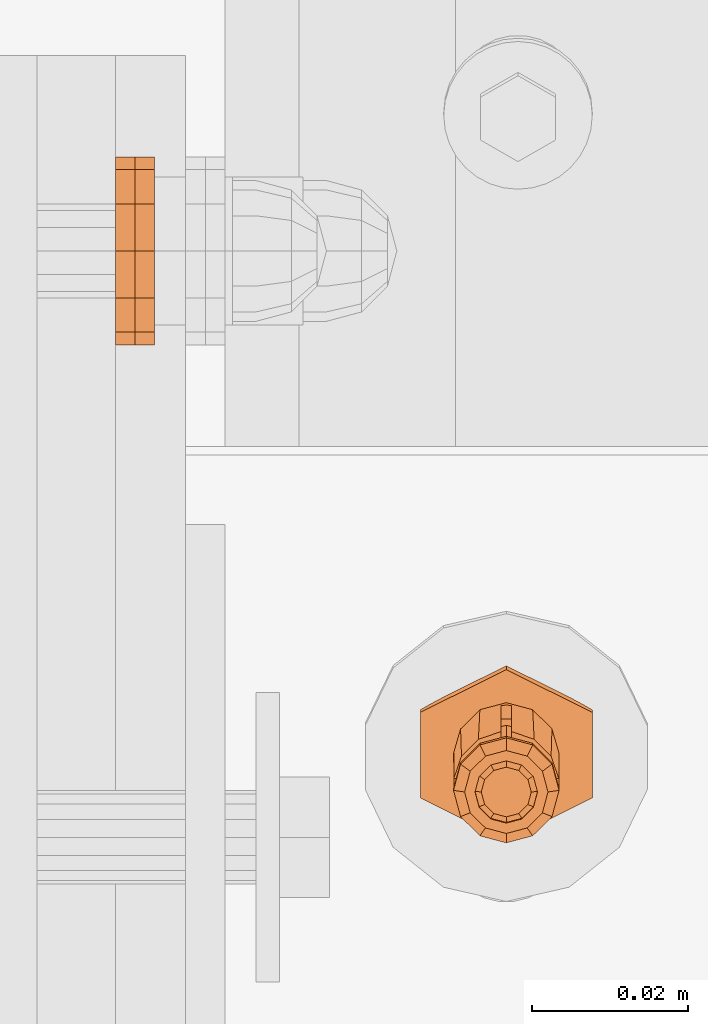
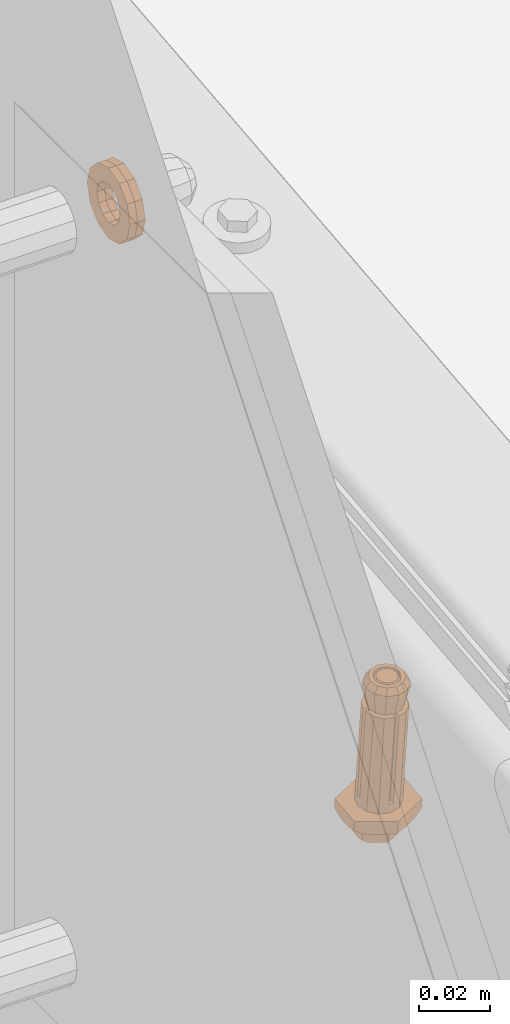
# One storey, part 107 of 162: 3 proxies.
"""IFC2X3 building model written with IfcOpenShell, lengths in millimetres."""

from ifc_helpers import new_model, entity, si_unit, converted_unit, origin_with_axes, place, context, project, spatial, faceted_brep, material, element, save


model = new_model("IFC2X3")

# Units and contexts
model_context = context("Model", 3, precision=1e-09, world=origin_with_axes())
ifc_project = project(units=[si_unit("LENGTHUNIT", "METRE", prefix="MILLI"), si_unit("AREAUNIT", "SQUARE_METRE"), si_unit("VOLUMEUNIT", "CUBIC_METRE"), converted_unit("PLANEANGLEUNIT", "DEGREE", entity("IfcPlaneAngleMeasure", 0.01745329), si_unit("PLANEANGLEUNIT", "RADIAN"), dimensions=[0, 0, 0, 0, 0, 0, 0])], contexts=[model_context])

# Site, building, storey
site_placement = place(None, origin_with_axes())
site = spatial("IfcSite", under=ifc_project, at=site_placement, Name="Hermannstra?e 1a, 60318 Frankfurt", CompositionType="ELEMENT")
building_placement = place(site_placement, origin_with_axes())
building = spatial("IfcBuilding", under=site, at=building_placement, Name="Struktur 1", CompositionType="ELEMENT")
storey_placement = place(building_placement, origin_with_axes())
storey = spatial("IfcBuildingStorey", under=building, at=storey_placement, Name="Default Storey", CompositionType="ELEMENT", Elevation=0.0)

# Proxies
ifc_material_1 = material(Name="S235JR")
proxy_1_placement = place(None, origin_with_axes())
element("IfcBuildingElementProxy", 1, at=proxy_1_placement, inside=storey, material=ifc_material_1, ObjectType="-", context=model_context, shape_type="Brep", body=[
    faceted_brep([(2589.309364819, 1858.221868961, 17347.870380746), (2589.309364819, 1857.509874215, 17346.991140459), (2591.309364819, 1858.042836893, 17347.047157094), (2590.909364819, 1858.648239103, 17347.915194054), (2592.773466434, 1859.498918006, 17347.200197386), (2592.080646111, 1859.813103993, 17348.037626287), (2587.709364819, 1864.160438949, 17348.494549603), (2586.538083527, 1862.995574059, 17348.37211737), (2586.109364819, 1861.404339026, 17348.204871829), (2586.538083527, 1859.813103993, 17348.037626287), (2587.709364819, 1858.648239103, 17347.915194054), (2592.509364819, 1861.404339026, 17348.204871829), (2592.080646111, 1862.995574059, 17348.37211737), (2590.909364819, 1864.160438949, 17348.494549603), (2589.309364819, 1864.586809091, 17348.539362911), (2587.309364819, 1858.042836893, 17347.047157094), (2593.309364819, 1861.487961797, 17347.409254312), (2589.309364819, 1861.983692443, 17304.425603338), (2591.309364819, 1862.51665512, 17304.481619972), (2587.309364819, 1862.51665512, 17304.481619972), (2585.845263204, 1859.498918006, 17347.200197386), (2592.773466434, 1863.972736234, 17304.634660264), (2591.309364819, 1864.933086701, 17347.771351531), (2589.309364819, 1865.466049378, 17347.827368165), (2592.773466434, 1863.477005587, 17347.618311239), (2585.309364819, 1861.487961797, 17347.409254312), (2585.845263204, 1863.477005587, 17347.618311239), (2587.309364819, 1864.933086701, 17347.771351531), (2585.845263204, 1863.972736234, 17304.634660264), (2593.309364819, 1865.961780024, 17304.843717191), (2591.809364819, 1861.655373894, 17304.391095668), (2593.639491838, 1863.475475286, 17304.582396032), (2594.309364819, 1865.961780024, 17304.843717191), (2593.639491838, 1868.448084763, 17305.105038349), (2591.809364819, 1870.268186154, 17305.296338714), (2589.309364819, 1870.934389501, 17305.366359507), (2586.809364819, 1870.268186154, 17305.296338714), (2584.9792378, 1868.448084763, 17305.105038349), (2584.309364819, 1865.961780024, 17304.843717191), (2584.9792378, 1863.475475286, 17304.582396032), (2586.809364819, 1861.655373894, 17304.391095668), (2589.309364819, 1860.989170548, 17304.321074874), (2585.309364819, 1865.961780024, 17304.843717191), (2585.845263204, 1867.950823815, 17305.052774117), (2587.309364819, 1869.406904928, 17305.205814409), (2589.309364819, 1869.939867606, 17305.261831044), (2591.309364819, 1869.406904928, 17305.205814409), (2592.773466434, 1867.950823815, 17305.052774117), (2589.984364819, 1860.86744627, 17305.917094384), (2588.634364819, 1860.86744627, 17305.917094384), (2585.096454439, 1859.771535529, 17337.97817447), (2586.616525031, 1858.259792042, 17337.819283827), (2589.984364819, 1857.522535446, 17337.741795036), (2592.002204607, 1858.259792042, 17337.819283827), (2593.5222752, 1859.771535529, 17337.97817447), (2589.534977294, 1860.8269898, 17305.912842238), (2589.083752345, 1860.8269898, 17305.912842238), (2588.634364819, 1857.522535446, 17337.741795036), (2584.355136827, 1861.778321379, 17338.189096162), (2584.355136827, 1865.123232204, 17306.364395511), (2592.877629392, 1856.751265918, 17337.660731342), (2595.039110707, 1858.900906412, 17337.886667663), (2596.02553002, 1861.778321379, 17338.189096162), (2594.263592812, 1861.778321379, 17338.189096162), (2589.984364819, 1855.770250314, 17337.557622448), (2594.263592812, 1865.123232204, 17306.364395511), (2589.984364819, 1859.115161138, 17305.732921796), (2588.634364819, 1859.115161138, 17305.732921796), (2589.084029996, 1859.085253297, 17305.729778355), (2589.534699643, 1859.085253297, 17305.729778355), (2594.263592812, 1866.465836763, 17306.505508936), (2584.355136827, 1866.465836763, 17306.505508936), (2588.634364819, 1855.770250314, 17337.557622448), (2583.579618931, 1858.900906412, 17337.886667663), (2585.741100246, 1856.751265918, 17337.660731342), (2582.593199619, 1861.778321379, 17338.189096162), (2584.314457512, 1865.570157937, 17306.411369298), (2584.314457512, 1866.018911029, 17306.458535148), (2594.304272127, 1865.570157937, 17306.411369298), (2589.984364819, 1870.721622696, 17306.952810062), (2594.304272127, 1866.018911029, 17306.458535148), (2593.5222752, 1865.127711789, 17338.54113128), (2592.002204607, 1866.639455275, 17338.700021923), (2594.263592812, 1863.120925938, 17338.330209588), (2584.355136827, 1863.120925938, 17338.330209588), (2586.616525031, 1866.639455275, 17338.700021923), (2585.096454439, 1865.127711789, 17338.54113128), (2588.634364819, 1867.376711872, 17338.777510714), (2588.634364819, 1870.721622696, 17306.952810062), (2589.309364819, 1859.404599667, 17302.655408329), (2582.593199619, 1865.123232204, 17306.364395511), (2582.593199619, 1866.465836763, 17306.505508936), (2582.563127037, 1866.018634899, 17306.458506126), (2582.563127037, 1865.570434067, 17306.41139832), (2592.684364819, 1860.303974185, 17302.7499364), (2596.055602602, 1866.018634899, 17306.458506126), (2596.02553002, 1866.465836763, 17306.505508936), (2596.02553002, 1865.123232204, 17306.364395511), (2596.055602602, 1865.570434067, 17306.41139832), (2589.534977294, 1870.762079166, 17306.957062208), (2589.984364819, 1867.376711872, 17338.777510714), (2596.02553002, 1863.120925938, 17338.330209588), (2582.593199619, 1863.120925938, 17338.330209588), (2585.741100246, 1868.147981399, 17338.858574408), (2583.579618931, 1865.998340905, 17338.632638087), (2588.634364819, 1869.128997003, 17338.961683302), (2589.083752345, 1870.762079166, 17306.957062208), (2585.934364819, 1860.303974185, 17302.7499364), (2583.463693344, 1862.761111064, 17303.008191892), (2595.155036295, 1862.761111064, 17303.008191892), (2589.084029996, 1872.503815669, 17307.140126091), (2588.634364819, 1872.473907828, 17307.136982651), (2589.984364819, 1872.473907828, 17307.136982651), (2589.534699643, 1872.503815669, 17307.140126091), (2589.984364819, 1869.128997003, 17338.961683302), (2596.059364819, 1866.117622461, 17303.360975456), (2595.039110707, 1865.998340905, 17338.632638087), (2592.877629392, 1868.147981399, 17338.858574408), (2582.559364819, 1866.117622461, 17303.360975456), (2589.309364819, 1855.177881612, 17302.21116236), (2600.309364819, 1860.647752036, 17302.786068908), (2600.309364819, 1871.587492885, 17303.935882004), (2589.309364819, 1877.05736331, 17304.510788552), (2578.309364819, 1871.587492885, 17303.935882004), (2578.309364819, 1860.647752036, 17302.786068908), (2583.463693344, 1869.474133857, 17303.713759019), (2585.934364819, 1871.931270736, 17303.972014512), (2589.309364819, 1872.830645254, 17304.066542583), (2592.684364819, 1871.931270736, 17303.972014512), (2595.155036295, 1869.474133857, 17303.713759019), (2599.169635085, 1860.503568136, 17298.70611969), (2600.309364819, 1862.273081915, 17299.114537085), (2600.309364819, 1860.970886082, 17299.711653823), (2599.326638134, 1860.789535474, 17298.725144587), (2597.861342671, 1859.904333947, 17298.149384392), (2589.309364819, 1855.644807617, 17297.768658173), (2594.982133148, 1858.506289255, 17297.678520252), (2600.309364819, 1870.761034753, 17300.006656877), (2600.309364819, 1871.910626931, 17300.861466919), (2600.309364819, 1863.682831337, 17298.86596157), (2600.309364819, 1866.584548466, 17298.918471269), (2600.309364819, 1869.433773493, 17299.470409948), (2598.435680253, 1861.367411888, 17298.148115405), (2580.757386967, 1859.904333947, 17298.149384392), (2583.636596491, 1858.506289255, 17297.678520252), (2578.309364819, 1860.970886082, 17299.711653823), (2579.449094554, 1860.503568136, 17298.70611969), (2589.309364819, 1856.127195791, 17297.5973465), (2578.309364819, 1862.273081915, 17299.114537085), (2578.309364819, 1870.761034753, 17300.006656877), (2578.309364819, 1869.433773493, 17299.470409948), (2578.309364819, 1866.584548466, 17298.918471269), (2578.309364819, 1863.682831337, 17298.86596157), (2578.309364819, 1871.910626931, 17300.861466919), (2599.847526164, 1866.607627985, 17298.698884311), (2599.169635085, 1872.576795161, 17299.975066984), (2599.326638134, 1872.293121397, 17299.934220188), (2597.406702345, 1861.981372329, 17297.990106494), (2589.309364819, 1857.331982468, 17297.501435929), (2579.292091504, 1860.789535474, 17298.725144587), (2597.861342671, 1873.278686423, 17299.555085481), (2594.982133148, 1874.744078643, 17299.385180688), (2589.309364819, 1877.524289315, 17300.068284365), (2598.435680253, 1871.847844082, 17299.249653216), (2593.984364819, 1858.577782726, 17297.632374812), (2598.659364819, 1866.630762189, 17298.47877706), (2580.183049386, 1861.367411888, 17298.148115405), (2579.292091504, 1872.293121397, 17299.934220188), (2579.449094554, 1872.576795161, 17299.975066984), (2583.636596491, 1874.744078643, 17299.385180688), (2580.757386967, 1873.278686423, 17299.555085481), (2597.406702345, 1871.28015205, 17298.967447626), (2584.634364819, 1858.577782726, 17297.632374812), (2581.212027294, 1861.981372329, 17297.990106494), (2579.959364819, 1866.630762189, 17298.47877706), (2581.212027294, 1871.28015205, 17298.967447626), (2584.634364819, 1874.683741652, 17299.325179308), (2589.309364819, 1875.929541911, 17299.456118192), (2593.984364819, 1874.683741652, 17299.325179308), (2595.809364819, 1863.398566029, 17298.139059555), (2595.809364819, 1869.862958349, 17298.818494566), (2589.309364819, 1873.095154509, 17299.158212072), (2582.809364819, 1869.862958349, 17298.818494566), (2582.809364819, 1863.398566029, 17298.139059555), (2589.309364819, 1860.166369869, 17297.799342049), (2595.135888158, 1863.679129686, 17292.248175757), (2595.809364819, 1864.724751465, 17292.489513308), (2595.809364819, 1863.955272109, 17292.842355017), (2589.309364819, 1860.808043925, 17291.694221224), (2592.661455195, 1862.498919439, 17291.640957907), (2594.362806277, 1863.325036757, 17291.919195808), (2578.771203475, 1866.607627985, 17298.698884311), (2580.183049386, 1871.847844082, 17299.249653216), (2595.809364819, 1868.956069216, 17292.699801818), (2595.809364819, 1869.74035996, 17293.016675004), (2595.809364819, 1870.419664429, 17293.521790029), (2595.809364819, 1865.557785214, 17292.342627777), (2595.809364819, 1867.272436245, 17292.373656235), (2595.228662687, 1863.848110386, 17292.259417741), (2589.309364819, 1861.093091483, 17291.592991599), (2589.309364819, 1877.088060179, 17299.800422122), (2594.702187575, 1864.189582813, 17291.918445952), (2589.309364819, 1861.805010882, 17291.53631717), (2585.957274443, 1862.498919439, 17291.640957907), (2582.809364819, 1863.955272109, 17292.842355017), (2583.482841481, 1863.679129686, 17292.248175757), (2584.255923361, 1863.325036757, 17291.919195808), (2592.071864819, 1862.541165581, 17291.613690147), (2582.809364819, 1864.724751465, 17292.489513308), (2582.809364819, 1870.419664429, 17293.521790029), (2582.809364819, 1869.74035996, 17293.016675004), (2582.809364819, 1868.956069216, 17292.699801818), (2582.809364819, 1867.272436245, 17292.373656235), (2582.809364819, 1865.557785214, 17292.342627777), (2595.135888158, 1870.813309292, 17292.998008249), (2595.536460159, 1867.286074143, 17292.243900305), (2594.094155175, 1864.552377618, 17291.82507705), (2584.524574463, 1870.04711109, 17292.40259681), (2586.546864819, 1872.058323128, 17292.613983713), (2589.309364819, 1872.794477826, 17292.691356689), (2592.071864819, 1872.058323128, 17292.613983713), (2594.094155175, 1870.04711109, 17292.40259681), (2594.834364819, 1867.299744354, 17292.11383693), (2586.546864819, 1862.541165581, 17291.613690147), (2584.524574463, 1864.552377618, 17291.82507705), (2583.784364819, 1867.299744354, 17292.11383693), (2583.390066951, 1863.848110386, 17292.259417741), (2595.228662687, 1870.645683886, 17292.973871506), (2594.362806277, 1871.228063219, 17292.749837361), (2592.661455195, 1872.093976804, 17292.649439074), (2589.309364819, 1873.736828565, 17293.053091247), (2583.916542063, 1864.189582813, 17291.918445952), (2583.482841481, 1870.813309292, 17292.998008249), (2594.702187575, 1870.382565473, 17292.569354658), (2583.082269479, 1867.286074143, 17292.243900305), (2583.390066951, 1870.645683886, 17292.973871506), (2585.957274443, 1872.093976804, 17292.649439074), (2584.255923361, 1871.228063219, 17292.749837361), (2583.916542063, 1870.382565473, 17292.569354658), (2589.309364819, 1873.479056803, 17292.894809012)], [[[0, 1, 2, 3]], [[3, 2, 4, 5]], [[6, 7, 8, 9, 10, 0, 3, 5, 11, 12, 13, 14]], [[1, 0, 10, 15]], [[5, 4, 16, 11]], [[1, 17, 18, 2]], [[15, 19, 17, 1]], [[15, 10, 9, 20]], [[2, 18, 21, 4]], [[13, 22, 23, 14]], [[12, 24, 22, 13]], [[11, 16, 24, 12]], [[8, 25, 20, 9]], [[7, 26, 25, 8]], [[6, 27, 26, 7]], [[14, 23, 27, 6]], [[19, 15, 20, 28]], [[4, 21, 29, 16]], [[30, 31, 32, 33, 34, 35, 36, 37, 38, 39, 40, 41], [29, 21, 18, 17, 19, 28, 42, 43, 44, 45, 46, 47]], [[28, 20, 25, 42]], [[22, 46, 45, 23]], [[24, 47, 46, 22]], [[16, 29, 47, 24]], [[26, 43, 42, 25]], [[27, 44, 43, 26]], [[23, 45, 44, 27]], [[30, 41, 48]], [[41, 40, 49]], [[40, 39, 50, 51]], [[30, 52, 53]], [[31, 30, 53, 54]], [[30, 48, 52]], [[41, 55, 48]], [[41, 56, 55]], [[41, 49, 56]], [[40, 57, 49]], [[40, 51, 57]], [[39, 58, 50]], [[39, 38, 59]], [[60, 61, 62, 63, 54, 53, 52, 64]], [[32, 31, 65]], [[31, 54, 63]], [[52, 48, 66, 64]], [[55, 56, 49, 67, 68, 69, 66, 48]], [[33, 32, 70]], [[38, 37, 71]], [[49, 57, 72, 67]], [[73, 74, 72, 57, 51, 50, 58, 75]], [[39, 59, 58]], [[38, 76, 59]], [[38, 77, 76]], [[32, 65, 78]], [[31, 63, 65]], [[35, 34, 79]], [[32, 80, 70]], [[32, 78, 80]], [[34, 33, 81, 82]], [[33, 70, 83]], [[38, 71, 77]], [[37, 84, 71]], [[37, 36, 85, 86]], [[36, 87, 85]], [[36, 35, 88]], [[69, 68, 89]], [[58, 59, 90, 75]], [[76, 77, 71, 91, 92, 93, 90, 59]], [[60, 64, 94]], [[95, 96, 70, 80, 78, 65, 97, 98]], [[65, 63, 62, 97]], [[66, 94, 64]], [[66, 69, 89]], [[35, 79, 99]], [[34, 100, 79]], [[34, 82, 100]], [[83, 70, 96, 101]], [[33, 83, 81]], [[71, 84, 102, 91]], [[37, 86, 84]], [[103, 104, 102, 84, 86, 85, 87, 105]], [[36, 88, 87]], [[35, 106, 88]], [[35, 99, 106]], [[67, 89, 68]], [[67, 72, 107]], [[72, 74, 107]], [[73, 108, 107, 74]], [[73, 75, 108]], [[60, 94, 109, 61]], [[62, 61, 109]], [[66, 89, 94]], [[110, 111, 88, 106, 99, 79, 112, 113]], [[79, 100, 114, 112]], [[95, 98, 115]], [[116, 117, 114, 100, 82, 81, 83, 101]], [[93, 92, 118]], [[87, 88, 111, 105]], [[67, 107, 89]], [[90, 108, 75]], [[90, 93, 118]], [[97, 115, 98]], [[97, 62, 109]], [[119, 120, 121, 122, 123, 124], [109, 94, 89, 107, 108, 118, 125, 126, 127, 128, 129, 115]], [[96, 129, 101]], [[96, 95, 115]], [[116, 101, 129]], [[91, 118, 92]], [[91, 102, 125]], [[103, 105, 126]], [[110, 113, 127]], [[90, 118, 108]], [[97, 109, 115]], [[112, 127, 113]], [[112, 114, 128]], [[96, 115, 129]], [[114, 117, 128]], [[116, 129, 128, 117]], [[130, 131, 132]], [[130, 133, 131]], [[134, 133, 130]], [[135, 136, 134, 130, 132, 120, 119]], [[91, 125, 118]], [[102, 104, 125]], [[103, 126, 125, 104]], [[111, 126, 105]], [[111, 110, 127]], [[112, 128, 127]], [[137, 138, 121, 120, 132, 131, 139, 140, 141]], [[133, 139, 131]], [[134, 142, 133]], [[111, 127, 126]], [[143, 144, 135, 119, 124, 145, 146]], [[133, 142, 139]], [[136, 142, 134]], [[147, 136, 135]], [[146, 145, 148]], [[149, 150, 151, 152, 148, 145, 124, 123, 153]], [[140, 139, 154]], [[155, 138, 137]], [[141, 156, 137]], [[155, 137, 156]], [[142, 154, 139]], [[136, 157, 142]], [[147, 158, 136]], [[144, 147, 135]], [[143, 146, 159]], [[146, 148, 159]], [[160, 161, 162, 122, 121, 138, 155]], [[141, 140, 154]], [[141, 163, 156]], [[160, 155, 156]], [[157, 136, 164]], [[142, 157, 165, 154]], [[158, 164, 136]], [[144, 158, 147]], [[143, 159, 166]], [[152, 159, 148]], [[167, 150, 149]], [[168, 167, 149]], [[168, 149, 153]], [[162, 169, 170, 168, 153, 123, 122]], [[141, 154, 163]], [[160, 156, 163]], [[171, 165, 157, 164, 158, 172, 173, 174, 175, 176, 177, 178], [179, 180, 181, 182, 183, 184]], [[185, 186, 187]], [[179, 184, 188, 189, 190, 185, 187]], [[158, 144, 172]], [[166, 144, 143]], [[152, 166, 159]], [[152, 151, 191]], [[151, 150, 191]], [[167, 192, 150]], [[170, 167, 168]], [[154, 165, 171, 163]], [[163, 161, 160]], [[193, 194, 195, 180, 179, 187, 186, 196, 197]], [[185, 198, 186]], [[190, 198, 185]], [[199, 189, 188]], [[173, 172, 144]], [[166, 173, 144]], [[152, 191, 166]], [[192, 191, 150]], [[170, 192, 167]], [[161, 200, 162]], [[163, 171, 161]], [[198, 196, 186]], [[190, 201, 198]], [[199, 202, 189]], [[203, 199, 188]], [[183, 204, 205, 206, 203, 188, 184]], [[173, 166, 191, 174]], [[192, 175, 174, 191]], [[169, 192, 170]], [[200, 169, 162]], [[161, 177, 200]], [[171, 178, 161]], [[198, 201, 196]], [[189, 201, 190]], [[202, 207, 189]], [[205, 204, 208]], [[203, 202, 199]], [[183, 182, 209, 210, 211, 212, 213, 208, 204]], [[169, 175, 192]], [[177, 161, 178]], [[200, 177, 169]], [[214, 195, 194]], [[197, 196, 215]], [[201, 215, 196]], [[189, 216, 201]], [[216, 189, 207]], [[217, 218, 219, 220, 221, 222, 216, 207, 202, 223, 224, 225]], [[206, 205, 226]], [[205, 208, 226]], [[202, 203, 223]], [[175, 169, 176]], [[177, 176, 169]], [[193, 227, 194]], [[214, 194, 227]], [[228, 229, 230, 181, 180, 195, 214]], [[193, 197, 215]], [[201, 216, 222, 215]], [[206, 226, 231]], [[213, 226, 208]], [[224, 223, 203]], [[231, 203, 206]], [[232, 210, 209]], [[193, 233, 227]], [[228, 214, 227]], [[193, 215, 233]], [[213, 231, 226]], [[231, 224, 203]], [[213, 212, 234]], [[235, 211, 210]], [[232, 235, 210]], [[182, 181, 230, 236, 237, 232, 209]], [[228, 227, 233]], [[215, 222, 221, 233]], [[213, 234, 231]], [[224, 231, 234, 225]], [[212, 211, 234]], [[235, 238, 211]], [[237, 235, 232]], [[229, 239, 230]], [[233, 229, 228]], [[239, 236, 230]], [[238, 234, 211]], [[237, 238, 235]], [[229, 219, 239]], [[233, 221, 229]], [[225, 234, 238, 217]], [[239, 219, 236]], [[236, 238, 237]], [[219, 229, 220]], [[221, 220, 229]], [[219, 218, 236]], [[236, 217, 238]], [[217, 236, 218]]]),
    faceted_brep([(2583.463693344, 1858.256884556, 17345.863044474), (2584.690562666, 1858.752280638, 17347.92612926), (2583.976031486, 1861.404339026, 17348.204871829), (2582.559364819, 1861.613395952, 17346.215828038), (2583.976031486, 1862.449623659, 17338.259652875), (2582.559364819, 1861.822452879, 17344.226784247), (2583.463693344, 1865.178964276, 17344.579567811), (2584.690562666, 1865.101682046, 17338.538395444), (2585.934364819, 1855.799747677, 17345.604788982), (2586.642698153, 1856.810839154, 17347.722075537), (2589.309364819, 1856.100222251, 17347.647386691), (2591.976031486, 1856.810839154, 17347.722075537), (2593.928166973, 1858.752280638, 17347.92612926), (2594.642698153, 1861.404339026, 17348.204871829), (2593.928166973, 1864.056397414, 17348.483614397), (2591.976031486, 1865.997838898, 17348.68766812), (2589.309364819, 1866.708455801, 17348.762356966), (2586.642698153, 1865.997838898, 17348.68766812), (2584.690562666, 1864.056397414, 17348.483614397), (2589.309364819, 1857.426251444, 17347.786757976), (2587.309364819, 1857.959214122, 17347.84277461), (2585.845263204, 1859.415295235, 17347.995814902), (2585.309364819, 1861.404339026, 17348.204871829), (2585.845263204, 1863.393382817, 17348.413928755), (2587.309364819, 1864.84946393, 17348.566969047), (2589.309364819, 1865.382426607, 17348.622985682), (2591.309364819, 1864.84946393, 17348.566969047), (2592.773466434, 1863.393382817, 17348.413928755), (2593.309364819, 1861.404339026, 17348.204871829), (2592.773466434, 1859.415295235, 17347.995814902), (2591.309364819, 1857.959214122, 17347.84277461), (2586.642698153, 1857.856123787, 17337.776856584), (2584.690562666, 1859.797565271, 17337.980910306), (2586.642698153, 1867.043123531, 17338.742449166), (2589.309364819, 1867.753740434, 17338.817138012), (2591.976031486, 1867.043123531, 17338.742449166), (2593.928166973, 1865.101682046, 17338.538395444), (2594.642698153, 1862.449623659, 17338.259652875), (2593.928166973, 1859.797565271, 17337.980910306), (2591.976031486, 1857.856123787, 17337.776856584), (2589.309364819, 1857.145506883, 17337.702167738), (2585.309364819, 1862.449623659, 17338.259652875), (2585.845263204, 1860.460579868, 17338.050595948), (2587.309364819, 1859.004498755, 17337.897555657), (2589.309364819, 1858.471536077, 17337.841539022), (2591.309364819, 1859.004498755, 17337.897555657), (2592.773466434, 1860.460579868, 17338.050595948), (2593.309364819, 1862.449623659, 17338.259652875), (2592.773466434, 1864.438667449, 17338.468709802), (2591.309364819, 1865.894748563, 17338.621750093), (2589.309364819, 1866.42771124, 17338.677766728), (2587.309364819, 1865.894748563, 17338.621750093), (2585.845263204, 1864.438667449, 17338.468709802), (2583.463693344, 1858.465941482, 17343.874000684), (2583.463693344, 1864.969907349, 17346.568611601), (2585.934364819, 1867.636101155, 17344.837823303), (2589.309364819, 1854.900373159, 17345.510260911), (2585.934364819, 1856.008804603, 17343.615745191), (2585.934364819, 1867.427044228, 17346.826867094), (2589.309364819, 1868.535475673, 17344.932351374), (2592.684364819, 1855.799747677, 17345.604788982), (2589.309364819, 1855.109430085, 17343.52121712), (2589.309364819, 1868.326418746, 17346.921395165), (2592.684364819, 1867.636101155, 17344.837823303), (2595.155036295, 1858.256884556, 17345.863044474), (2592.684364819, 1856.008804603, 17343.615745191), (2592.684364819, 1867.427044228, 17346.826867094), (2595.155036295, 1865.178964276, 17344.579567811), (2596.059364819, 1861.613395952, 17346.215828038), (2595.155036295, 1858.465941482, 17343.874000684), (2595.155036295, 1864.969907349, 17346.568611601), (2596.059364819, 1861.822452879, 17344.226784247)], [[[0, 1, 2, 3]], [[4, 5, 6, 7]], [[1, 0, 8, 9]], [[9, 10, 11, 12, 13, 14, 15, 16, 17, 18, 2, 1], [19, 20, 21, 22, 23, 24, 25, 26, 27, 28, 29, 30]], [[31, 32, 4, 7, 33, 34, 35, 36, 37, 38, 39, 40], [41, 42, 43, 44, 45, 46, 47, 48, 49, 50, 51, 52]], [[5, 4, 32, 53]], [[41, 22, 21, 42]], [[3, 5, 53, 0]], [[22, 41, 52, 23]], [[3, 2, 18, 54]], [[5, 3, 54, 6]], [[7, 6, 55, 33]], [[9, 8, 56, 10]], [[0, 53, 57, 8]], [[42, 21, 20, 43]], [[53, 32, 31, 57]], [[23, 52, 51, 24]], [[54, 18, 17, 58]], [[6, 54, 58, 55]], [[33, 55, 59, 34]], [[10, 56, 60, 11]], [[8, 57, 61, 56]], [[19, 44, 43, 20]], [[57, 31, 40, 61]], [[50, 25, 24, 51]], [[44, 19, 30, 45]], [[58, 17, 16, 62]], [[55, 58, 62, 59]], [[29, 46, 45, 30]], [[34, 59, 63, 35]], [[49, 26, 25, 50]], [[48, 27, 26, 49]], [[28, 47, 46, 29]], [[11, 60, 64, 12]], [[56, 61, 65, 60]], [[61, 40, 39, 65]], [[47, 28, 27, 48]], [[62, 16, 15, 66]], [[59, 62, 66, 63]], [[35, 63, 67, 36]], [[12, 64, 68, 13]], [[60, 65, 69, 64]], [[65, 39, 38, 69]], [[66, 15, 14, 70]], [[63, 66, 70, 67]], [[37, 71, 69, 38]], [[36, 67, 71, 37]], [[13, 68, 70, 14]], [[64, 69, 71, 68]], [[67, 70, 68, 71]]]),
])
ifc_material_2 = material(Name="Kunststoff")
proxy_2_placement = place(None, origin_with_axes())
element("IfcBuildingElementProxy", 2, at=proxy_2_placement, inside=storey, material=ifc_material_2, ObjectType="-", context=model_context, shape_type="Brep", body=[
    faceted_brep([(2541.80936482, 1941.002385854, 17479.045442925), (2539.30936482, 1941.002385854, 17479.045442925), (2539.30936482, 1942.610081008, 17485.045442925), (2541.80936482, 1942.610081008, 17485.045442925), (2539.30936482, 1936.610081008, 17474.653138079), (2539.30936482, 1930.610081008, 17473.045442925), (2539.30936482, 1924.610081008, 17474.653138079), (2539.30936482, 1920.217776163, 17479.045442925), (2539.30936482, 1918.610081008, 17485.045442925), (2539.30936482, 1920.217776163, 17491.045442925), (2539.30936482, 1924.610081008, 17495.43774777), (2539.30936482, 1930.610081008, 17497.045442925), (2539.30936482, 1936.610081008, 17495.43774777), (2539.30936482, 1941.002385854, 17491.045442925), (2539.30936482, 1933.860081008, 17479.4162778), (2539.30936482, 1936.239246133, 17481.795442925), (2539.30936482, 1937.110081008, 17485.045442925), (2539.30936482, 1936.239246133, 17488.295442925), (2539.30936482, 1933.860081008, 17490.674608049), (2539.30936482, 1930.610081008, 17491.545442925), (2539.30936482, 1927.360081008, 17490.674608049), (2539.30936482, 1924.980915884, 17488.295442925), (2539.30936482, 1924.110081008, 17485.045442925), (2539.30936482, 1924.980915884, 17481.795442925), (2539.30936482, 1927.360081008, 17479.4162778), (2539.30936482, 1930.610081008, 17478.545442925), (2541.80936482, 1937.110081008, 17485.045442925), (2541.80936482, 1936.239246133, 17481.795442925), (2541.80936482, 1936.610081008, 17474.653138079), (2541.80936482, 1941.002385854, 17491.045442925), (2541.80936482, 1936.610081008, 17495.43774777), (2541.80936482, 1930.610081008, 17497.045442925), (2541.80936482, 1924.610081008, 17495.43774777), (2541.80936482, 1920.217776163, 17491.045442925), (2541.80936482, 1918.610081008, 17485.045442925), (2541.80936482, 1920.217776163, 17479.045442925), (2541.80936482, 1924.610081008, 17474.653138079), (2541.80936482, 1930.610081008, 17473.045442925), (2541.80936482, 1933.860081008, 17479.4162778), (2541.80936482, 1930.610081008, 17478.545442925), (2541.80936482, 1927.360081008, 17479.4162778), (2541.80936482, 1924.980915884, 17481.795442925), (2541.80936482, 1924.110081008, 17485.045442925), (2541.80936482, 1924.980915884, 17488.295442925), (2541.80936482, 1927.360081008, 17490.674608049), (2541.80936482, 1930.610081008, 17491.545442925), (2541.80936482, 1933.860081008, 17490.674608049), (2541.80936482, 1936.239246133, 17488.295442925)], [[[0, 1, 2, 3]], [[1, 4, 5, 6, 7, 8, 9, 10, 11, 12, 13, 2], [14, 15, 16, 17, 18, 19, 20, 21, 22, 23, 24, 25]], [[26, 16, 15, 27]], [[28, 0, 3, 29, 30, 31, 32, 33, 34, 35, 36, 37], [26, 27, 38, 39, 40, 41, 42, 43, 44, 45, 46, 47]], [[1, 0, 28, 4]], [[16, 26, 47, 17]], [[3, 2, 13, 29]], [[27, 15, 14, 38]], [[4, 28, 37, 5]], [[17, 47, 46, 18]], [[29, 13, 12, 30]], [[38, 14, 25, 39]], [[18, 46, 45, 19]], [[5, 37, 36, 6]], [[39, 25, 24, 40]], [[30, 12, 11, 31]], [[19, 45, 44, 20]], [[6, 36, 35, 7]], [[40, 24, 23, 41]], [[31, 11, 10, 32]], [[20, 44, 43, 21]], [[7, 35, 34, 8]], [[41, 23, 22, 42]], [[32, 10, 9, 33]], [[21, 43, 42, 22]], [[8, 34, 33, 9]]]),
])
ifc_material_3 = material(Name="A4")
proxy_3_placement = place(None, origin_with_axes())
element("IfcBuildingElementProxy", 3, at=proxy_3_placement, inside=storey, material=ifc_material_3, ObjectType="-", context=model_context, shape_type="Brep", body=[
    faceted_brep([(2544.30936482, 1920.217776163, 17479.045442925), (2541.80936482, 1920.217776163, 17479.045442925), (2541.80936482, 1924.610081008, 17474.653138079), (2544.30936482, 1924.610081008, 17474.653138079), (2544.30936482, 1930.610081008, 17473.045442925), (2544.30936482, 1936.610081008, 17474.653138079), (2544.30936482, 1941.002385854, 17479.045442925), (2544.30936482, 1942.610081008, 17485.045442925), (2544.30936482, 1941.002385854, 17491.045442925), (2544.30936482, 1936.610081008, 17495.43774777), (2544.30936482, 1930.610081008, 17497.045442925), (2544.30936482, 1924.610081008, 17495.43774777), (2544.30936482, 1920.217776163, 17491.045442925), (2544.30936482, 1918.610081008, 17485.045442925), (2544.30936482, 1933.860081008, 17479.4162778), (2544.30936482, 1930.610081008, 17478.545442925), (2544.30936482, 1927.360081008, 17479.4162778), (2544.30936482, 1924.980915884, 17481.795442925), (2544.30936482, 1924.110081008, 17485.045442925), (2544.30936482, 1924.980915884, 17488.295442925), (2544.30936482, 1927.360081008, 17490.674608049), (2544.30936482, 1930.610081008, 17491.545442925), (2544.30936482, 1933.860081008, 17490.674608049), (2544.30936482, 1936.239246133, 17488.295442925), (2544.30936482, 1937.110081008, 17485.045442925), (2544.30936482, 1936.239246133, 17481.795442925), (2541.80936482, 1918.610081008, 17485.045442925), (2541.80936482, 1920.217776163, 17491.045442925), (2541.80936482, 1924.610081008, 17495.43774777), (2541.80936482, 1930.610081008, 17497.045442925), (2541.80936482, 1936.610081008, 17495.43774777), (2541.80936482, 1941.002385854, 17491.045442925), (2541.80936482, 1942.610081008, 17485.045442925), (2541.80936482, 1941.002385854, 17479.045442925), (2541.80936482, 1936.610081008, 17474.653138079), (2541.80936482, 1930.610081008, 17473.045442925), (2541.80936482, 1924.110081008, 17485.045442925), (2541.80936482, 1924.980915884, 17481.795442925), (2541.80936482, 1927.360081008, 17479.4162778), (2541.80936482, 1930.610081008, 17478.545442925), (2541.80936482, 1933.860081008, 17479.4162778), (2541.80936482, 1936.239246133, 17481.795442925), (2541.80936482, 1937.110081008, 17485.045442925), (2541.80936482, 1936.239246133, 17488.295442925), (2541.80936482, 1933.860081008, 17490.674608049), (2541.80936482, 1930.610081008, 17491.545442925), (2541.80936482, 1927.360081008, 17490.674608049), (2541.80936482, 1924.980915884, 17488.295442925)], [[[0, 1, 2, 3]], [[3, 4, 5, 6, 7, 8, 9, 10, 11, 12, 13, 0], [14, 15, 16, 17, 18, 19, 20, 21, 22, 23, 24, 25]], [[1, 26, 27, 28, 29, 30, 31, 32, 33, 34, 35, 2], [36, 37, 38, 39, 40, 41, 42, 43, 44, 45, 46, 47]], [[37, 17, 16, 38]], [[1, 0, 13, 26]], [[17, 37, 36, 18]], [[38, 16, 15, 39]], [[3, 2, 35, 4]], [[26, 13, 12, 27]], [[18, 36, 47, 19]], [[39, 15, 14, 40]], [[4, 35, 34, 5]], [[27, 12, 11, 28]], [[19, 47, 46, 20]], [[40, 14, 25, 41]], [[5, 34, 33, 6]], [[24, 42, 41, 25]], [[28, 11, 10, 29]], [[20, 46, 45, 21]], [[23, 43, 42, 24]], [[6, 33, 32, 7]], [[44, 22, 21, 45]], [[43, 23, 22, 44]], [[29, 10, 9, 30]], [[7, 32, 31, 8]], [[30, 9, 8, 31]]]),
])

save(model, "model.ifc")
